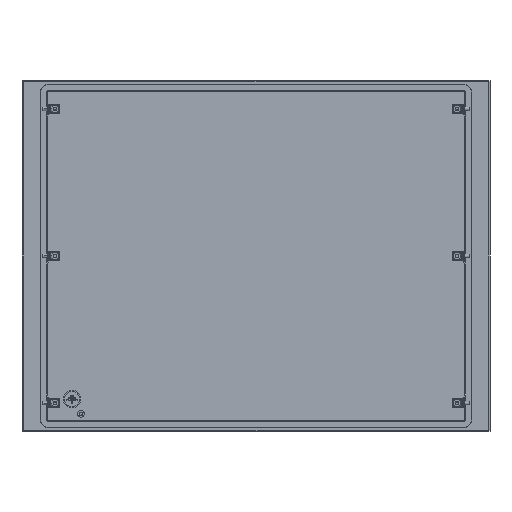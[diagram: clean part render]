
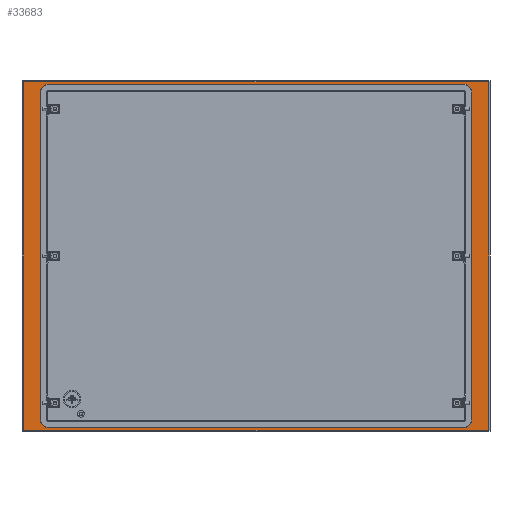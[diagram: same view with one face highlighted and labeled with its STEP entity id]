
A CAD part, left-side view. The second image highlights one B-rep face of the part: STEP entity #33683.
In plain terms, the highlighted planar face has unit normal (-1, 0, 0).
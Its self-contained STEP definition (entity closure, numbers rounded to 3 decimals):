
#183 = LINE ( 'NONE', #22539, #28003 ) ;
#546 = DIRECTION ( 'NONE',  ( 0., 0., -1. ) ) ;
#561 = VERTEX_POINT ( 'NONE', #7031 ) ;
#985 = VECTOR ( 'NONE', #22343, 1000. ) ;
#1067 = CARTESIAN_POINT ( 'NONE',  ( -2., -352.5, -292. ) ) ;
#1263 = CARTESIAN_POINT ( 'NONE',  ( -2., 366.5, -278. ) ) ;
#1683 = EDGE_CURVE ( 'NONE', #26968, #25197, #3486, .T. ) ;
#2006 = EDGE_CURVE ( 'NONE', #31155, #32987, #35854, .T. ) ;
#2208 = EDGE_CURVE ( 'NONE', #25197, #15474, #12550, .T. ) ;
#2886 = VECTOR ( 'NONE', #30665, 1000. ) ;
#3486 = CIRCLE ( 'NONE', #11150, 14. ) ;
#3775 = VECTOR ( 'NONE', #6098, 1000. ) ;
#5277 = ORIENTED_EDGE ( 'NONE', *, *, #36558, .T. ) ;
#5492 = CARTESIAN_POINT ( 'NONE',  ( -2., 366.5, -278. ) ) ;
#5963 = DIRECTION ( 'NONE',  ( 1., 0., 0. ) ) ;
#6098 = DIRECTION ( 'NONE',  ( 0., -1., 0. ) ) ;
#6137 = DIRECTION ( 'NONE',  ( 1., 0., 0. ) ) ;
#6173 = EDGE_CURVE ( 'NONE', #22799, #31155, #14784, .T. ) ;
#7001 = DIRECTION ( 'NONE',  ( 0., 0., 1. ) ) ;
#7031 = CARTESIAN_POINT ( 'NONE',  ( -2., -352.5, 292. ) ) ;
#7089 = DIRECTION ( 'NONE',  ( 0., 1., 0. ) ) ;
#7940 = DIRECTION ( 'NONE',  ( 1., 0., 0. ) ) ;
#8375 = CARTESIAN_POINT ( 'NONE',  ( -2., 395.5, -296. ) ) ;
#8432 = VERTEX_POINT ( 'NONE', #33763 ) ;
#8850 = ORIENTED_EDGE ( 'NONE', *, *, #33134, .T. ) ;
#8885 = EDGE_CURVE ( 'NONE', #24258, #561, #24807, .T. ) ;
#9284 = EDGE_LOOP ( 'NONE', ( #9956, #11969, #8850, #31347, #34440, #17532, #18154, #32046 ) ) ;
#9383 = VERTEX_POINT ( 'NONE', #22246 ) ;
#9956 = ORIENTED_EDGE ( 'NONE', *, *, #8885, .F. ) ;
#11150 = AXIS2_PLACEMENT_3D ( 'NONE', #34039, #6137, #17428 ) ;
#11940 = VECTOR ( 'NONE', #7089, 1000. ) ;
#11942 = EDGE_CURVE ( 'NONE', #32987, #9383, #22419, .T. ) ;
#11969 = ORIENTED_EDGE ( 'NONE', *, *, #18762, .T. ) ;
#12266 = EDGE_CURVE ( 'NONE', #561, #13141, #18529, .T. ) ;
#12550 = LINE ( 'NONE', #1263, #17681 ) ;
#12658 = LINE ( 'NONE', #18211, #11940 ) ;
#12972 = DIRECTION ( 'NONE',  ( 0., 1., 0. ) ) ;
#13141 = VERTEX_POINT ( 'NONE', #32830 ) ;
#13555 = CARTESIAN_POINT ( 'NONE',  ( -2., -395.5, 296. ) ) ;
#13647 = CIRCLE ( 'NONE', #20157, 14. ) ;
#13774 = CARTESIAN_POINT ( 'NONE',  ( -2., -352.5, 278. ) ) ;
#14034 = DIRECTION ( 'NONE',  ( 0., 0., 1. ) ) ;
#14754 = VERTEX_POINT ( 'NONE', #1067 ) ;
#14784 = LINE ( 'NONE', #14980, #3775 ) ;
#14980 = CARTESIAN_POINT ( 'NONE',  ( -2., 0., -296. ) ) ;
#15474 = VERTEX_POINT ( 'NONE', #21085 ) ;
#15596 = EDGE_CURVE ( 'NONE', #13141, #15474, #13647, .T. ) ;
#16285 = CARTESIAN_POINT ( 'NONE',  ( -2., -395.5, 0. ) ) ;
#16894 = CARTESIAN_POINT ( 'NONE',  ( -2., -352.5, -278. ) ) ;
#17001 = FACE_BOUND ( 'NONE', #9284, .T. ) ;
#17428 = DIRECTION ( 'NONE',  ( 0., 0., -1. ) ) ;
#17532 = ORIENTED_EDGE ( 'NONE', *, *, #2208, .T. ) ;
#17681 = VECTOR ( 'NONE', #7001, 1000. ) ;
#17881 = CARTESIAN_POINT ( 'NONE',  ( -2., -395.5, -296. ) ) ;
#17912 = ORIENTED_EDGE ( 'NONE', *, *, #11942, .T. ) ;
#18154 = ORIENTED_EDGE ( 'NONE', *, *, #15596, .F. ) ;
#18211 = CARTESIAN_POINT ( 'NONE',  ( -2., -352.5, -292. ) ) ;
#18529 = LINE ( 'NONE', #29794, #27337 ) ;
#18762 = EDGE_CURVE ( 'NONE', #24258, #8432, #19395, .T. ) ;
#19026 = DIRECTION ( 'NONE',  ( 0., 0., 1. ) ) ;
#19395 = LINE ( 'NONE', #30653, #985 ) ;
#19801 = AXIS2_PLACEMENT_3D ( 'NONE', #16894, #5963, #25927 ) ;
#19887 = DIRECTION ( 'NONE',  ( -1., 0., 0. ) ) ;
#20157 = AXIS2_PLACEMENT_3D ( 'NONE', #35838, #33427, #19026 ) ;
#21085 = CARTESIAN_POINT ( 'NONE',  ( -2., 366.5, 278. ) ) ;
#22246 = CARTESIAN_POINT ( 'NONE',  ( -2., 395.5, 296. ) ) ;
#22343 = DIRECTION ( 'NONE',  ( 0., 0., -1. ) ) ;
#22395 = CARTESIAN_POINT ( 'NONE',  ( -2., -366.5, 278. ) ) ;
#22419 = LINE ( 'NONE', #33684, #29076 ) ;
#22539 = CARTESIAN_POINT ( 'NONE',  ( -2., 395.5, 0. ) ) ;
#22799 = VERTEX_POINT ( 'NONE', #8375 ) ;
#23044 = AXIS2_PLACEMENT_3D ( 'NONE', #13774, #19887, #28363 ) ;
#24183 = ORIENTED_EDGE ( 'NONE', *, *, #2006, .T. ) ;
#24258 = VERTEX_POINT ( 'NONE', #22395 ) ;
#24807 = CIRCLE ( 'NONE', #23044, 14. ) ;
#25018 = DIRECTION ( 'NONE',  ( 0., 1., 0. ) ) ;
#25197 = VERTEX_POINT ( 'NONE', #5492 ) ;
#25927 = DIRECTION ( 'NONE',  ( 0., -1., 0. ) ) ;
#26611 = EDGE_CURVE ( 'NONE', #14754, #26968, #12658, .T. ) ;
#26655 = CARTESIAN_POINT ( 'NONE',  ( -2., 352.5, -292. ) ) ;
#26968 = VERTEX_POINT ( 'NONE', #26655 ) ;
#27337 = VECTOR ( 'NONE', #12972, 1000. ) ;
#27538 = CARTESIAN_POINT ( 'NONE',  ( -2., 0., 0. ) ) ;
#28003 = VECTOR ( 'NONE', #546, 1000. ) ;
#28082 = FACE_OUTER_BOUND ( 'NONE', #34409, .T. ) ;
#28363 = DIRECTION ( 'NONE',  ( 0., -1., 0. ) ) ;
#29076 = VECTOR ( 'NONE', #25018, 1000. ) ;
#29794 = CARTESIAN_POINT ( 'NONE',  ( -2., -352.5, 292. ) ) ;
#30653 = CARTESIAN_POINT ( 'NONE',  ( -2., -366.5, 0. ) ) ;
#30657 = PLANE ( 'NONE',  #34575 ) ;
#30665 = DIRECTION ( 'NONE',  ( 0., 0., 1. ) ) ;
#31155 = VERTEX_POINT ( 'NONE', #17881 ) ;
#31347 = ORIENTED_EDGE ( 'NONE', *, *, #26611, .T. ) ;
#32046 = ORIENTED_EDGE ( 'NONE', *, *, #12266, .F. ) ;
#32830 = CARTESIAN_POINT ( 'NONE',  ( -2., 352.5, 292. ) ) ;
#32987 = VERTEX_POINT ( 'NONE', #13555 ) ;
#33134 = EDGE_CURVE ( 'NONE', #8432, #14754, #35719, .T. ) ;
#33427 = DIRECTION ( 'NONE',  ( -1., 0., 0. ) ) ;
#33683 = ADVANCED_FACE ( 'NONE', ( #28082, #17001 ), #30657, .F. ) ;
#33684 = CARTESIAN_POINT ( 'NONE',  ( -2., 0., 296. ) ) ;
#33763 = CARTESIAN_POINT ( 'NONE',  ( -2., -366.5, -278. ) ) ;
#34039 = CARTESIAN_POINT ( 'NONE',  ( -2., 352.5, -278. ) ) ;
#34409 = EDGE_LOOP ( 'NONE', ( #24183, #17912, #5277, #35795 ) ) ;
#34440 = ORIENTED_EDGE ( 'NONE', *, *, #1683, .T. ) ;
#34575 = AXIS2_PLACEMENT_3D ( 'NONE', #27538, #7940, #14034 ) ;
#35719 = CIRCLE ( 'NONE', #19801, 14. ) ;
#35795 = ORIENTED_EDGE ( 'NONE', *, *, #6173, .T. ) ;
#35838 = CARTESIAN_POINT ( 'NONE',  ( -2., 352.5, 278. ) ) ;
#35854 = LINE ( 'NONE', #16285, #2886 ) ;
#36558 = EDGE_CURVE ( 'NONE', #9383, #22799, #183, .T. ) ;
